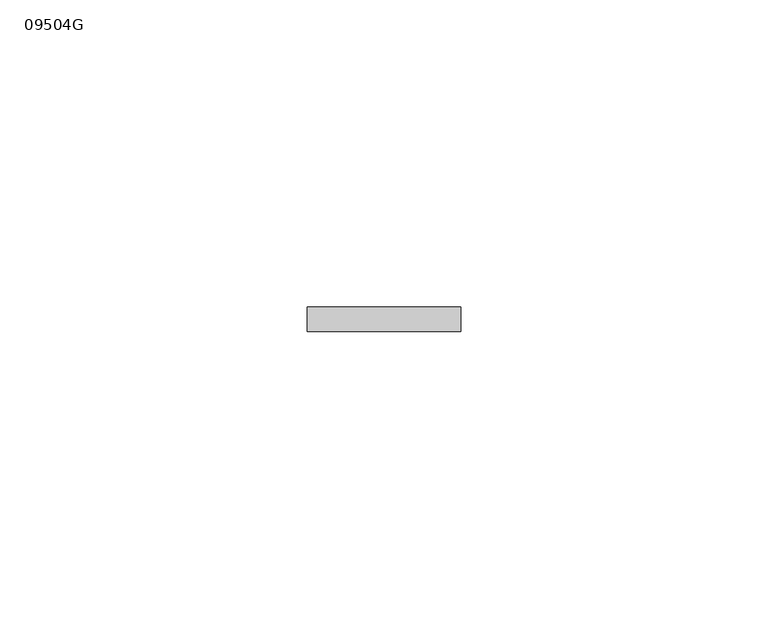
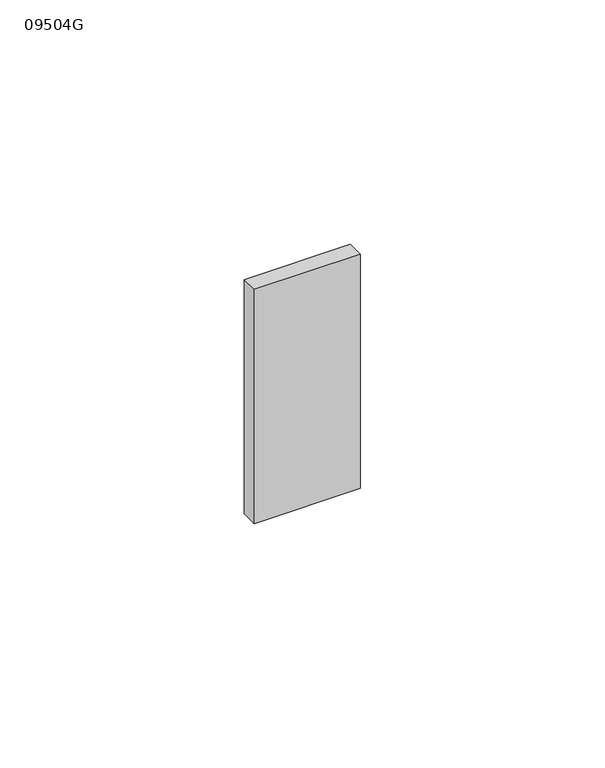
"""IFC4 building model written with IfcOpenShell, lengths in millimetres: duct fitting geometry, КНС_НакладкаНаСтыкКрышек_DKC : 09504G."""

from ifc_helpers import new_model, si_unit, frame, origin, place, context, project, spatial, polyline, outline, extrude, source, transform, mapped, element, save


def duct_fitting_09504g_049c488c(model_context):
    return source(origin(), model_context, "Body", "SweptSolid", [
        extrude(outline(polyline([(-117.5, 126.0), (-142.5, 126.0), (-142.5, 130.0), (-117.5, 130.0), (-117.5, 126.0)])), frame((0.0, 0.0, -29.25), z_axis=(0.0, 0.0, 1.0), x_axis=(1.0, 0.0, 0.0)), (0.0, 0.0, 1.0), 58.5),
    ])


if __name__ == "__main__":
    model = new_model("IFC4")
    model_context = context("Model", 3, world=origin())
    ifc_project = project(units=[si_unit("LENGTHUNIT", "METRE", prefix="MILLI")], contexts=[model_context])
    site = spatial("IfcSite", under=ifc_project)
    building = spatial("IfcBuilding", under=site)
    placement = place(None, origin())
    duct_fitting_09504g_shape = duct_fitting_09504g_049c488c(model_context)
    element("IfcDuctFitting", 1, ObjectType="КНС_НакладкаНаСтыкКрышек_DKC : 09504G", at=placement, inside=building, context=model_context, shape_type="MappedRepresentation", body=[
        mapped(duct_fitting_09504g_shape, transform((0.0, 0.0, 0.0), x_axis=(1.0, 0.0, 0.0), y_axis=(0.0, 1.0, 0.0), z_axis=(0.0, 0.0, 1.0))),
    ])
    save(model, "model.ifc")
